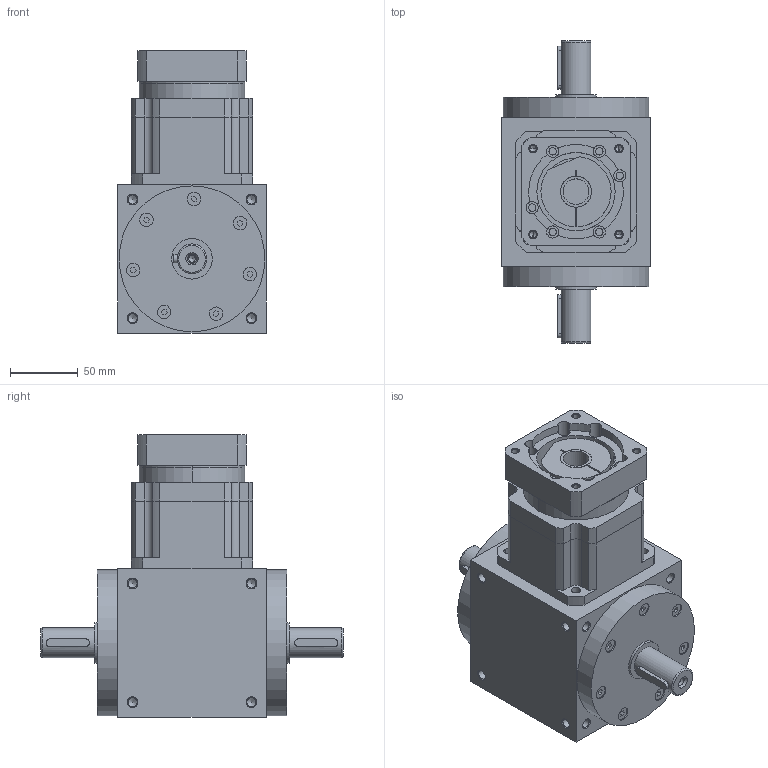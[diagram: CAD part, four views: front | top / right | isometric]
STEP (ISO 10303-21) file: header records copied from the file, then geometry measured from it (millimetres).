
FILE_DESCRIPTION(/* description */ (''),/* implementation_level */ '2;1');
FILE_NAME(/* name */ 'AT-110-FL(3-10)(19-70-90-M6).stp',/* time_stamp */ '2024-12-06T21:14:49+08:00',/* author */ (''),/* organization */ (''),/* preprocessor_version */ 'ST-DEVELOPER v16',/* originating_system */ 'SIEMENS PLM Software NX 10.0',/* authorisation */ '');
FILE_SCHEMA (('CONFIG_CONTROL_DESIGN'));
Length unit declared in the file: millimetre
Products named in the file (1): AT-110-FL_3-10__19-70-90-M5__stp
Bounding box: 110 x 224 x 209 mm (x, y, z)
Volume: 2225628.2 mm3; surface area: 201424.7 mm2
Topology: 6 solids, 7 shells, 446 faces, 1156 edges, 745 vertices
Faces by surface type: plane 199, cylinder 183, cone 62, torus 2
Full cylindrical faces by diameter (mm): 5 x2, 6.7 x2, 6.8 x40, 10.003 x14, 22 x2, 22.2 x1, 30 x2, 59.127 x1, 108 x2
Entity records: 12843 total; most frequent: DIRECTION 2281, CARTESIAN_POINT 2276, ORIENTED_EDGE 1934, EDGE_CURVE 967, AXIS2_PLACEMENT_3D 875, VERTEX_POINT 698, EDGE_LOOP 639, LINE 531
